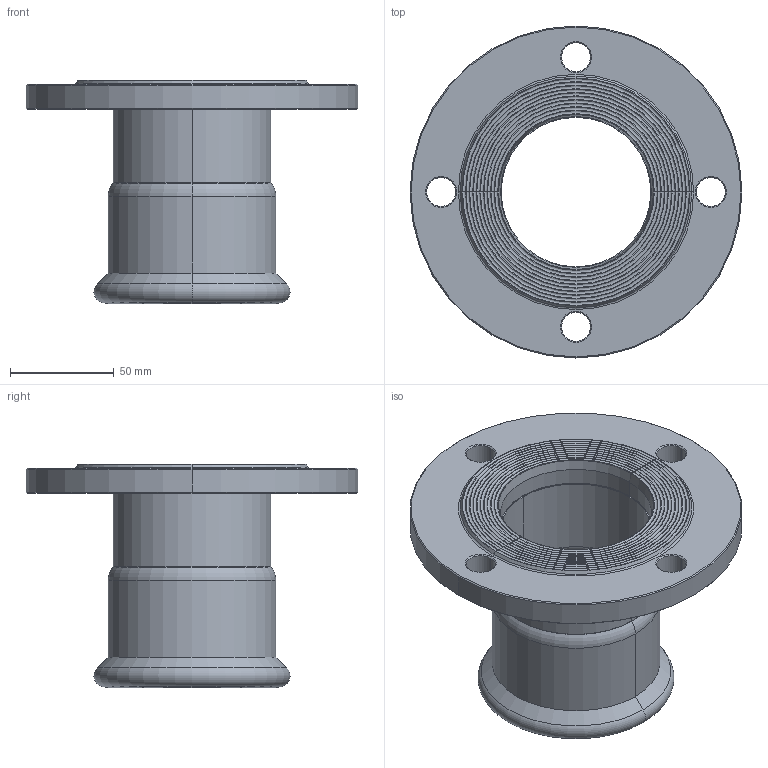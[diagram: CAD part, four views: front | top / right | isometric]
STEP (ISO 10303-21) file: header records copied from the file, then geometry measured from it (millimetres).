
FILE_DESCRIPTION(('Creo Elements/Direct Modeling STEP Export'),'2;1');
FILE_NAME('6206629.stp','2022-03-16T15:14:50',(''),(''),'PTC Creo Elements/Direct Modeling STEP processor for AP214 (Solid Model)','PTC Creo Elements/Direct Modeling 19.0C 15-Aug-2015 (C) Parametric Technology GmbH','');
FILE_SCHEMA(('AUTOMOTIVE_DESIGN { 1 0 10303 214 1 1 1 1 }'));
Length unit declared in the file: millimetre
Products named in the file (1): C1427_76.1
Bounding box: 160 x 160 x 107.7 mm (x, y, z)
Volume: 255560.2 mm3; surface area: 90277.2 mm2
Topology: 1 solids, 1 shells, 109 faces, 226 edges, 132 vertices
Faces by surface type: cone 42, torus 30, cylinder 22, plane 15
Entity records: 2576 total; most frequent: DIRECTION 456, ORIENTED_EDGE 452, CARTESIAN_POINT 392, EDGE_CURVE 226, AXIS2_PLACEMENT_3D 196, VERTEX_POINT 132, EDGE_LOOP 132, FACE_OUTER_BOUND 109
